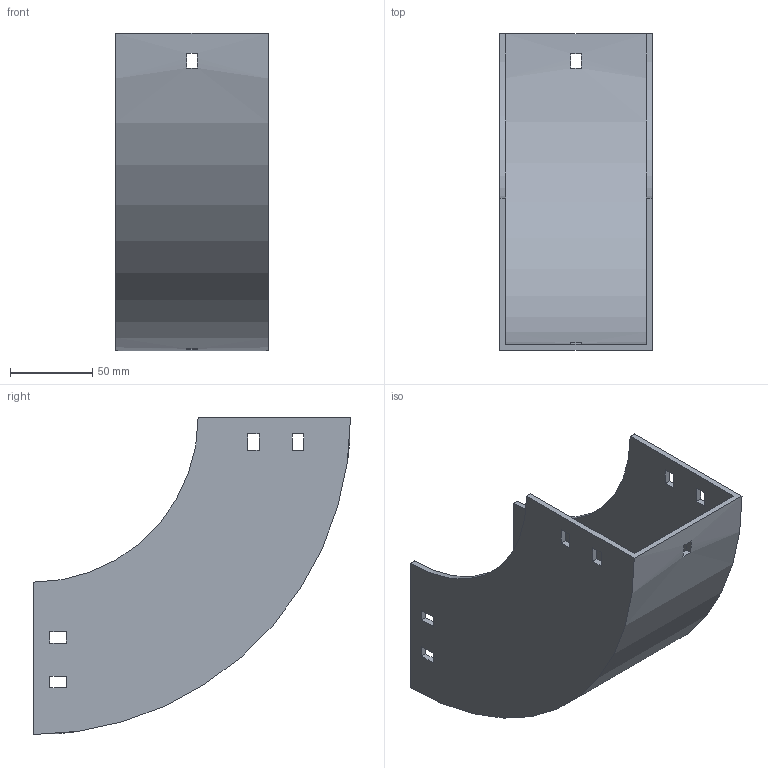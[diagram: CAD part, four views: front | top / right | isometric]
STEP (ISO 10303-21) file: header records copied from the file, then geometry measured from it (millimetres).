
FILE_DESCRIPTION (( 'STEP AP214' ), '1' );
FILE_NAME ('30B1I092.step', '2025-02-21T09:51:09', ( '' ), ( '' ), 'SwSTEP 2.0', 'SolidWorks 2023', '' );
FILE_SCHEMA (( 'AUTOMOTIVE_DESIGN' ));
Length unit declared in the file: millimetre
Products named in the file (1): 30B1I092
Bounding box: 92.5 x 192.5 x 192.5 mm (x, y, z)
Volume: 236042.5 mm3; surface area: 139063.6 mm2
Topology: 1 solids, 1 shells, 50 faces, 144 edges, 96 vertices
Faces by surface type: plane 46, cylinder 4
Entity records: 1687 total; most frequent: CARTESIAN_POINT 291, ORIENTED_EDGE 288, DIRECTION 262, EDGE_CURVE 144, VECTOR 128, LINE 128, VERTEX_POINT 96, EDGE_LOOP 70
